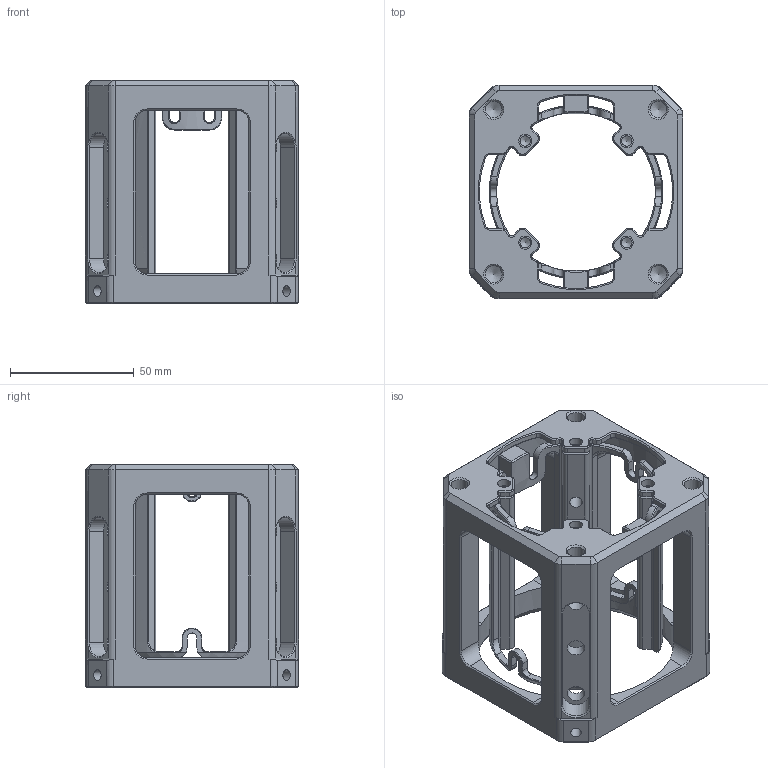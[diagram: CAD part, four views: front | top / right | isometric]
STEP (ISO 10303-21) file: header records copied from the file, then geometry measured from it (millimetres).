
FILE_DESCRIPTION (( 'STEP AP214' ), '1' );
FILE_NAME ('D80俋嘀-D70囀傍.STEP', '2026-05-07T03:33:40', ( '' ), ( '' ), 'SwSTEP 2.0', 'SolidWorks 2021', '' );
FILE_SCHEMA (( 'AUTOMOTIVE_DESIGN' ));
Length unit declared in the file: millimetre
Products named in the file (4): 111420030CB; 111420030CA; D80俋嘀-D70囀傍; 111340014BA
Assembly tree (3 placements, depth 3):
  D80俋嘀-D70囀傍
    111420030CB
      111420030CA
    111340014BA
Bounding box: 86 x 86 x 90 mm (x, y, z)
Volume: 144148.2 mm3; surface area: 67464 mm2
Topology: 2 solids, 2 shells, 726 faces, 1819 edges, 1092 vertices
Faces by surface type: plane 273, cone 205, cylinder 202, bspline 46
Full cylindrical faces by diameter (mm): 4.2 x8, 5 x12, 5.3 x4, 6.8 x4, 7 x12, 70 x1, 80 x1
Entity records: 35655 total; most frequent: CARTESIAN_POINT 18698, ORIENTED_EDGE 3490, DIRECTION 3244, EDGE_CURVE 1745, AXIS2_PLACEMENT_3D 1170, VERTEX_POINT 1075, VECTOR 904, LINE 904
